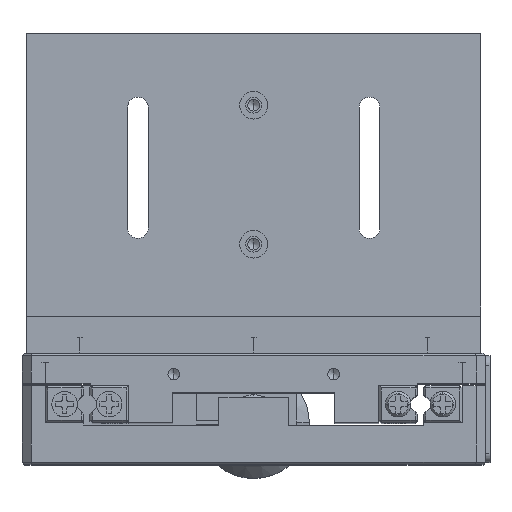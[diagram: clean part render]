
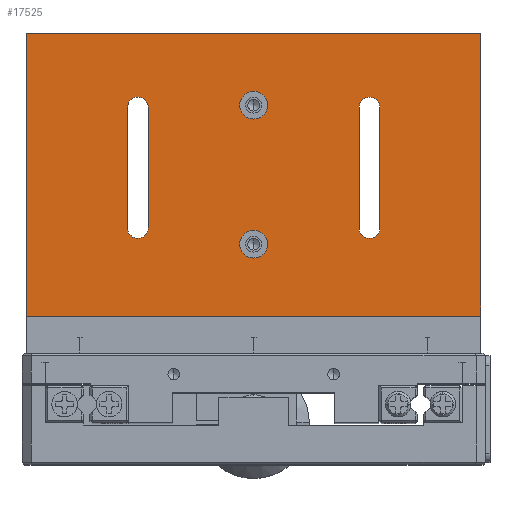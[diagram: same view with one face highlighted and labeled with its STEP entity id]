
A CAD part, top view. The second image highlights one B-rep face of the part: STEP entity #17525.
In plain terms, the highlighted planar face has unit normal (0, 0, 1).
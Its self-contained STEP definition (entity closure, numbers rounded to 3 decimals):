
#156 = DIRECTION ( 'NONE',  ( 0., 1., 0. ) ) ;
#564 = VERTEX_POINT ( 'NONE', #9944 ) ;
#892 = CARTESIAN_POINT ( 'NONE',  ( 22.95, 129.824, 131.181 ) ) ;
#1266 = FACE_BOUND ( 'NONE', #32962, .T. ) ;
#1432 = CIRCLE ( 'NONE', #60140, 2.25 ) ;
#1509 = AXIS2_PLACEMENT_3D ( 'NONE', #22821, #3828, #18849 ) ;
#3828 = DIRECTION ( 'NONE',  ( 0., 0., -1. ) ) ;
#4032 = EDGE_CURVE ( 'NONE', #59194, #34014, #36004, .T. ) ;
#4155 = VECTOR ( 'NONE', #17559, 1000. ) ;
#4602 = EDGE_CURVE ( 'NONE', #28432, #21361, #37396, .T. ) ;
#4926 = VERTEX_POINT ( 'NONE', #19553 ) ;
#5144 = EDGE_CURVE ( 'NONE', #9988, #25090, #1432, .T. ) ;
#5312 = EDGE_LOOP ( 'NONE', ( #49261, #49920, #48348, #50077 ) ) ;
#5708 = CARTESIAN_POINT ( 'NONE',  ( -3.3, 84.824, 131.181 ) ) ;
#5827 = CIRCLE ( 'NONE', #11260, 2.25 ) ;
#6209 = DIRECTION ( 'NONE',  ( 0., 0., -1. ) ) ;
#6398 = CARTESIAN_POINT ( 'NONE',  ( 45.7, 130.324, 131.181 ) ) ;
#7405 = DIRECTION ( 'NONE',  ( -1., 0., 0. ) ) ;
#7559 = CARTESIAN_POINT ( 'NONE',  ( 94.7, 145.824, 131.181 ) ) ;
#8518 = AXIS2_PLACEMENT_3D ( 'NONE', #46925, #27846, #13056 ) ;
#8706 = EDGE_CURVE ( 'NONE', #14583, #9759, #45332, .T. ) ;
#9620 = EDGE_LOOP ( 'NONE', ( #10374, #44646 ) ) ;
#9730 = VECTOR ( 'NONE', #156, 1000. ) ;
#9759 = VERTEX_POINT ( 'NONE', #19034 ) ;
#9944 = CARTESIAN_POINT ( 'NONE',  ( 72.95, 103.824, 131.181 ) ) ;
#9988 = VERTEX_POINT ( 'NONE', #21075 ) ;
#10374 = ORIENTED_EDGE ( 'NONE', *, *, #36181, .F. ) ;
#10997 = DIRECTION ( 'NONE',  ( -1., 0., 0. ) ) ;
#11260 = AXIS2_PLACEMENT_3D ( 'NONE', #39646, #6209, #10997 ) ;
#11348 = CARTESIAN_POINT ( 'NONE',  ( 94.7, 84.824, 131.181 ) ) ;
#11516 = EDGE_CURVE ( 'NONE', #34014, #14276, #57688, .T. ) ;
#11954 = CIRCLE ( 'NONE', #12105, 2.25 ) ;
#12105 = AXIS2_PLACEMENT_3D ( 'NONE', #60262, #59829, #7405 ) ;
#13048 = LINE ( 'NONE', #5708, #39968 ) ;
#13056 = DIRECTION ( 'NONE',  ( -1., 0., 0. ) ) ;
#13275 = DIRECTION ( 'NONE',  ( -1., 0., 0. ) ) ;
#13512 = DIRECTION ( 'NONE',  ( 0., 0., 1. ) ) ;
#13934 = LINE ( 'NONE', #53915, #51252 ) ;
#14276 = VERTEX_POINT ( 'NONE', #29963 ) ;
#14583 = VERTEX_POINT ( 'NONE', #45887 ) ;
#15500 = FACE_BOUND ( 'NONE', #5312, .T. ) ;
#15989 = LINE ( 'NONE', #50400, #34696 ) ;
#16003 = EDGE_CURVE ( 'NONE', #20550, #28432, #11954, .T. ) ;
#17447 = CARTESIAN_POINT ( 'NONE',  ( 72.95, 129.824, 131.181 ) ) ;
#17525 = ADVANCED_FACE ( 'NONE', ( #15500, #36452, #34214, #20710, #1266 ), #55887, .F. ) ;
#17559 = DIRECTION ( 'NONE',  ( 0., -1., 0. ) ) ;
#17741 = EDGE_LOOP ( 'NONE', ( #38315, #41364, #40676, #42164 ) ) ;
#18526 = CARTESIAN_POINT ( 'NONE',  ( 45.7, 100.324, 131.181 ) ) ;
#18842 = EDGE_LOOP ( 'NONE', ( #61121, #43859, #60034, #38700 ) ) ;
#18849 = DIRECTION ( 'NONE',  ( -1., 0., 0. ) ) ;
#19034 = CARTESIAN_POINT ( 'NONE',  ( 42.7, 100.324, 131.181 ) ) ;
#19553 = CARTESIAN_POINT ( 'NONE',  ( 42.7, 130.324, 131.181 ) ) ;
#20363 = CARTESIAN_POINT ( 'NONE',  ( 70.7, 129.824, 131.181 ) ) ;
#20491 = CARTESIAN_POINT ( 'NONE',  ( 48.7, 130.324, 131.181 ) ) ;
#20550 = VERTEX_POINT ( 'NONE', #50820 ) ;
#20710 = FACE_BOUND ( 'NONE', #9620, .T. ) ;
#20796 = CARTESIAN_POINT ( 'NONE',  ( 45.7, 130.324, 131.181 ) ) ;
#20924 = ORIENTED_EDGE ( 'NONE', *, *, #42657, .F. ) ;
#21075 = CARTESIAN_POINT ( 'NONE',  ( 68.45, 129.824, 131.181 ) ) ;
#21361 = VERTEX_POINT ( 'NONE', #37361 ) ;
#21934 = EDGE_CURVE ( 'NONE', #29321, #59194, #13048, .T. ) ;
#22821 = CARTESIAN_POINT ( 'NONE',  ( 70.7, 103.824, 131.181 ) ) ;
#25090 = VERTEX_POINT ( 'NONE', #17447 ) ;
#25171 = DIRECTION ( 'NONE',  ( -1., 0., 0. ) ) ;
#25552 = VECTOR ( 'NONE', #13275, 1000. ) ;
#25604 = DIRECTION ( 'NONE',  ( 1., 0., 0. ) ) ;
#27690 = DIRECTION ( 'NONE',  ( 1., 0., 0. ) ) ;
#27846 = DIRECTION ( 'NONE',  ( 0., 0., -1. ) ) ;
#27900 = EDGE_CURVE ( 'NONE', #21361, #30110, #5827, .T. ) ;
#28386 = DIRECTION ( 'NONE',  ( 0., 1., 0. ) ) ;
#28432 = VERTEX_POINT ( 'NONE', #55029 ) ;
#28773 = DIRECTION ( 'NONE',  ( 1., 0., 0. ) ) ;
#28826 = EDGE_CURVE ( 'NONE', #20550, #30110, #13934, .T. ) ;
#29321 = VERTEX_POINT ( 'NONE', #51797 ) ;
#29963 = CARTESIAN_POINT ( 'NONE',  ( -3.3, 145.824, 131.181 ) ) ;
#30110 = VERTEX_POINT ( 'NONE', #892 ) ;
#30265 = CARTESIAN_POINT ( 'NONE',  ( 68.45, 103.824, 131.181 ) ) ;
#30740 = EDGE_CURVE ( 'NONE', #14276, #29321, #34063, .T. ) ;
#31387 = LINE ( 'NONE', #60593, #52322 ) ;
#32962 = EDGE_LOOP ( 'NONE', ( #57631, #20924 ) ) ;
#33170 = CARTESIAN_POINT ( 'NONE',  ( 45.7, 100.324, 131.181 ) ) ;
#33999 = DIRECTION ( 'NONE',  ( 0., 0., 1. ) ) ;
#34014 = VERTEX_POINT ( 'NONE', #7559 ) ;
#34063 = LINE ( 'NONE', #60796, #4155 ) ;
#34214 = FACE_OUTER_BOUND ( 'NONE', #17741, .T. ) ;
#34696 = VECTOR ( 'NONE', #50813, 1000. ) ;
#36004 = LINE ( 'NONE', #11348, #58400 ) ;
#36181 = EDGE_CURVE ( 'NONE', #53624, #4926, #47804, .T. ) ;
#36289 = CARTESIAN_POINT ( 'NONE',  ( 94.7, 84.824, 131.181 ) ) ;
#36452 = FACE_BOUND ( 'NONE', #18842, .T. ) ;
#37361 = CARTESIAN_POINT ( 'NONE',  ( 18.45, 129.824, 131.181 ) ) ;
#37396 = LINE ( 'NONE', #38038, #9730 ) ;
#38028 = CIRCLE ( 'NONE', #50990, 3. ) ;
#38038 = CARTESIAN_POINT ( 'NONE',  ( 18.45, 103.824, 131.181 ) ) ;
#38315 = ORIENTED_EDGE ( 'NONE', *, *, #11516, .T. ) ;
#38700 = ORIENTED_EDGE ( 'NONE', *, *, #28826, .F. ) ;
#39142 = DIRECTION ( 'NONE',  ( 1., 0., 0. ) ) ;
#39166 = AXIS2_PLACEMENT_3D ( 'NONE', #20796, #40044, #25604 ) ;
#39601 = DIRECTION ( 'NONE',  ( 0., 0., -1. ) ) ;
#39646 = CARTESIAN_POINT ( 'NONE',  ( 20.7, 129.824, 131.181 ) ) ;
#39968 = VECTOR ( 'NONE', #39142, 1000. ) ;
#40044 = DIRECTION ( 'NONE',  ( 0., 0., 1. ) ) ;
#40069 = VERTEX_POINT ( 'NONE', #30265 ) ;
#40676 = ORIENTED_EDGE ( 'NONE', *, *, #21934, .T. ) ;
#41364 = ORIENTED_EDGE ( 'NONE', *, *, #30740, .T. ) ;
#41906 = CARTESIAN_POINT ( 'NONE',  ( -3.3, 145.824, 131.181 ) ) ;
#42164 = ORIENTED_EDGE ( 'NONE', *, *, #4032, .T. ) ;
#42657 = EDGE_CURVE ( 'NONE', #9759, #14583, #38028, .T. ) ;
#43859 = ORIENTED_EDGE ( 'NONE', *, *, #4602, .T. ) ;
#44646 = ORIENTED_EDGE ( 'NONE', *, *, #57757, .F. ) ;
#45027 = CIRCLE ( 'NONE', #51869, 3. ) ;
#45332 = CIRCLE ( 'NONE', #59022, 3. ) ;
#45887 = CARTESIAN_POINT ( 'NONE',  ( 48.7, 100.324, 131.181 ) ) ;
#46925 = CARTESIAN_POINT ( 'NONE',  ( 45.7, 115.324, 131.181 ) ) ;
#47804 = CIRCLE ( 'NONE', #39166, 3. ) ;
#47872 = CIRCLE ( 'NONE', #1509, 2.25 ) ;
#48005 = EDGE_CURVE ( 'NONE', #564, #25090, #31387, .T. ) ;
#48348 = ORIENTED_EDGE ( 'NONE', *, *, #5144, .T. ) ;
#48388 = EDGE_CURVE ( 'NONE', #564, #40069, #47872, .T. ) ;
#48748 = DIRECTION ( 'NONE',  ( 0., 1., 0. ) ) ;
#49261 = ORIENTED_EDGE ( 'NONE', *, *, #48388, .T. ) ;
#49920 = ORIENTED_EDGE ( 'NONE', *, *, #52177, .T. ) ;
#50077 = ORIENTED_EDGE ( 'NONE', *, *, #48005, .F. ) ;
#50400 = CARTESIAN_POINT ( 'NONE',  ( 68.45, 103.824, 131.181 ) ) ;
#50813 = DIRECTION ( 'NONE',  ( 0., 1., 0. ) ) ;
#50820 = CARTESIAN_POINT ( 'NONE',  ( 22.95, 103.824, 131.181 ) ) ;
#50990 = AXIS2_PLACEMENT_3D ( 'NONE', #18526, #13512, #27690 ) ;
#51252 = VECTOR ( 'NONE', #48748, 1000. ) ;
#51797 = CARTESIAN_POINT ( 'NONE',  ( -3.3, 84.824, 131.181 ) ) ;
#51869 = AXIS2_PLACEMENT_3D ( 'NONE', #6398, #60686, #55275 ) ;
#52177 = EDGE_CURVE ( 'NONE', #40069, #9988, #15989, .T. ) ;
#52322 = VECTOR ( 'NONE', #28386, 1000. ) ;
#53624 = VERTEX_POINT ( 'NONE', #20491 ) ;
#53915 = CARTESIAN_POINT ( 'NONE',  ( 22.95, 103.824, 131.181 ) ) ;
#55029 = CARTESIAN_POINT ( 'NONE',  ( 18.45, 103.824, 131.181 ) ) ;
#55275 = DIRECTION ( 'NONE',  ( 1., 0., 0. ) ) ;
#55887 = PLANE ( 'NONE',  #8518 ) ;
#57631 = ORIENTED_EDGE ( 'NONE', *, *, #8706, .F. ) ;
#57688 = LINE ( 'NONE', #41906, #25552 ) ;
#57757 = EDGE_CURVE ( 'NONE', #4926, #53624, #45027, .T. ) ;
#58361 = DIRECTION ( 'NONE',  ( 0., 1., 0. ) ) ;
#58400 = VECTOR ( 'NONE', #58361, 1000. ) ;
#59022 = AXIS2_PLACEMENT_3D ( 'NONE', #33170, #33999, #28773 ) ;
#59194 = VERTEX_POINT ( 'NONE', #36289 ) ;
#59829 = DIRECTION ( 'NONE',  ( 0., 0., -1. ) ) ;
#60034 = ORIENTED_EDGE ( 'NONE', *, *, #27900, .T. ) ;
#60140 = AXIS2_PLACEMENT_3D ( 'NONE', #20363, #39601, #25171 ) ;
#60262 = CARTESIAN_POINT ( 'NONE',  ( 20.7, 103.824, 131.181 ) ) ;
#60593 = CARTESIAN_POINT ( 'NONE',  ( 72.95, 103.824, 131.181 ) ) ;
#60686 = DIRECTION ( 'NONE',  ( 0., 0., 1. ) ) ;
#60796 = CARTESIAN_POINT ( 'NONE',  ( -3.3, 84.824, 131.181 ) ) ;
#61121 = ORIENTED_EDGE ( 'NONE', *, *, #16003, .T. ) ;
